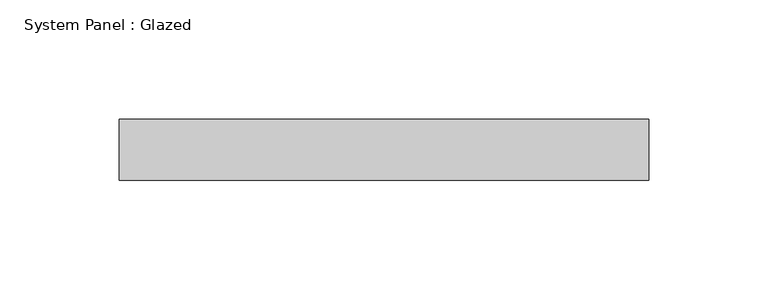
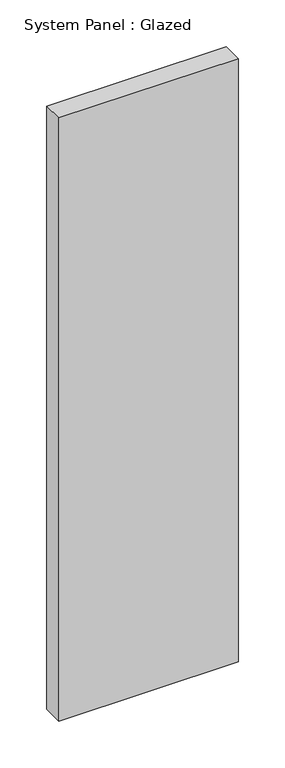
"""IFC4 building model written with IfcOpenShell, lengths in millimetres: plate geometry, System Panel : Glazed."""

import ifcopenshell
import ifcopenshell.guid

model = None  # the IFC model being written
_history = None  # IfcOwnerHistory: only IFC2X3 demands one
_inside = {}  # id of a spatial element -> (the spatial element, [elements in it])
_under = {}  # id of a project, library or spatial element -> (it, [spatial elements below it])
_declared = {}  # id of a project -> (the project, [libraries it declares])
_typed = {}  # id of a type object -> (the type object, [elements of that type])
_made_of = {}  # id of a material, layer set ... -> (it, [elements and type objects made of it])


def new_model(schema):
    """Start an empty IFC model of exactly this schema.

    Asked for "IFC4X3", IfcOpenShell would pick the latest addendum, in which some entities
    have other attributes; the version numbers below select the first issue.
    IFC2X3 requires an IfcOwnerHistory on every rooted entity: one is made here for all.
    """
    global model, _history
    if schema == "IFC4X3":
        model = ifcopenshell.file(schema_version=(4, 3, 0, 0))
    else:
        model = ifcopenshell.file(schema=schema)
    _inside.clear()
    _under.clear()
    _declared.clear()
    _typed.clear()
    _made_of.clear()
    _history = None
    if model.schema == "IFC2X3":
        org = make("IfcOrganization", Name="unknown")
        user = make(
            "IfcPersonAndOrganization",
            ThePerson=make("IfcPerson", FamilyName="unknown"),
            TheOrganization=org,
        )
        app = make(
            "IfcApplication",
            ApplicationDeveloper=org,
            Version="unknown",
            ApplicationFullName="unknown",
            ApplicationIdentifier="unknown",
        )
        _history = make(
            "IfcOwnerHistory",
            OwningUser=user,
            OwningApplication=app,
            ChangeAction="ADDED",
            CreationDate=0,
        )
    return model


def make(cls, **values):
    """One entity of the class cls with the attributes given. An attribute that is None is left unset."""
    return model.create_entity(
        cls, **{name: value for name, value in values.items() if value is not None}
    )


def rooted(cls, **values):
    """An entity with a GlobalId (a new one), such as an element, a storey or a relation."""
    return make(cls, GlobalId=ifcopenshell.guid.new(), OwnerHistory=_history, **values)


def si_unit(unit_type, name, prefix=None):
    """IfcSIUnit, for example si_unit("LENGTHUNIT", "METRE", prefix="MILLI")."""
    return make("IfcSIUnit", UnitType=unit_type, Prefix=prefix, Name=name)


def assignment(units):
    """IfcUnitAssignment: the units of a project."""
    return None if units is None else make("IfcUnitAssignment", Units=units)


def point(xyz):
    """IfcCartesianPoint."""
    return None if xyz is None else make("IfcCartesianPoint", Coordinates=xyz)


def direction(xyz):
    """IfcDirection."""
    return None if xyz is None else make("IfcDirection", DirectionRatios=xyz)


def frame(location, z_axis=None, x_axis=None):
    """IfcAxis2Placement3D, a coordinate frame: its origin and axes. An axis left out is left unset."""
    return make(
        "IfcAxis2Placement3D",
        Location=point(location),
        Axis=direction(z_axis),
        RefDirection=direction(x_axis),
    )


def origin():
    """The frame at (0, 0, 0) with its axes left unset."""
    return frame((0.0, 0.0, 0.0))


def origin_with_axes():
    """The frame at (0, 0, 0) with the z axis (0, 0, 1) and the x axis (1, 0, 0) written out."""
    return frame((0.0, 0.0, 0.0), z_axis=(0.0, 0.0, 1.0), x_axis=(1.0, 0.0, 0.0))


def place(relative_to, where):
    """IfcLocalPlacement: puts the frame where relative to a parent placement (None: the world)."""
    return make(
        "IfcLocalPlacement", PlacementRelTo=relative_to, RelativePlacement=where
    )


def context(
    kind, dimensions, precision=None, world=None, true_north=None, identifier=None
):
    """IfcGeometricRepresentationContext, for example the 3D "Model" context."""
    return make(
        "IfcGeometricRepresentationContext",
        ContextIdentifier=identifier,
        ContextType=kind,
        CoordinateSpaceDimension=dimensions,
        Precision=precision,
        WorldCoordinateSystem=world,
        TrueNorth=true_north,
    )


def project(units=None, contexts=None):
    """IfcProject with its units and contexts."""
    return rooted(
        "IfcProject",
        Name="project",
        RepresentationContexts=contexts,
        UnitsInContext=assignment(units),
    )


def spatial(cls, under=None, at=None, **own):
    """A site, building, storey or space (cls), placed at a placement, below another one or the project."""
    s = rooted(cls, ObjectPlacement=at, **own)
    if under is not None:
        _under.setdefault(under.id(), (under, []))[1].append(s)
    return s


def polyline(points):
    """IfcPolyline through the points."""
    return make("IfcPolyline", Points=[point(p) for p in points])


def outline(outer, holes=None, kind="AREA"):
    """IfcArbitraryClosedProfileDef: a profile drawn as a closed curve; with holes, ...WithVoids."""
    if holes is None:
        return make("IfcArbitraryClosedProfileDef", ProfileType=kind, OuterCurve=outer)
    return make(
        "IfcArbitraryProfileDefWithVoids",
        ProfileType=kind,
        OuterCurve=outer,
        InnerCurves=holes,
    )


def extrude(swept, where, along, depth):
    """IfcExtrudedAreaSolid: the profile swept, set in the frame where, extruded along a direction by depth."""
    return make(
        "IfcExtrudedAreaSolid",
        SweptArea=swept,
        Position=where,
        ExtrudedDirection=direction(along),
        Depth=depth,
    )


def shape(context_of_items, identifier, shape_type, items):
    """IfcShapeRepresentation: the items that make up one representation, for example the "Body"."""
    return make(
        "IfcShapeRepresentation",
        ContextOfItems=context_of_items,
        RepresentationIdentifier=identifier,
        RepresentationType=shape_type,
        Items=items,
    )


def source(mapping_origin, context_of_items, identifier, shape_type, items):
    """IfcRepresentationMap: a shape defined once, which mapped items show again and again."""
    return make(
        "IfcRepresentationMap",
        MappingOrigin=mapping_origin,
        MappedRepresentation=shape(context_of_items, identifier, shape_type, items),
    )


def transform(
    local_origin,
    x_axis=None,
    y_axis=None,
    z_axis=None,
    scale=None,
    scale2=None,
    scale3=None,
    uniform=True,
):
    """IfcCartesianTransformationOperator3D, or its non-uniform kind. x_axis, y_axis, z_axis: its Axis1, 2, 3."""
    if uniform:
        return make(
            "IfcCartesianTransformationOperator3D",
            Axis1=direction(x_axis),
            Axis2=direction(y_axis),
            LocalOrigin=point(local_origin),
            Scale=scale,
            Axis3=direction(z_axis),
        )
    return make(
        "IfcCartesianTransformationOperator3DnonUniform",
        Axis1=direction(x_axis),
        Axis2=direction(y_axis),
        LocalOrigin=point(local_origin),
        Scale=scale,
        Axis3=direction(z_axis),
        Scale2=scale2,
        Scale3=scale3,
    )


def mapped(mapping_source, mapping_target):
    """IfcMappedItem: shows the shape of a source again, moved by a transform."""
    return make(
        "IfcMappedItem", MappingSource=mapping_source, MappingTarget=mapping_target
    )


def made_of(thing, what):
    """Note that an element or type object is made of a material, layer set ...; save() writes the relation."""
    if what is not None:
        _made_of.setdefault(what.id(), (what, []))[1].append(thing)
    return thing


def element(
    cls,
    number,
    at=None,
    inside=None,
    cuts=None,
    type_object=None,
    material=None,
    context=None,
    identifier="Body",
    shape_type=None,
    held_by="IfcProductDefinitionShape",
    body=None,
    shapes=None,
    **own,
):
    """One element of the class cls, such as IfcWall. Its Tag is "e" and its number.

    at: its placement. inside: the storey or other place that contains it. cuts: it is an
    opening in that element (IfcRelVoidsElement). A single representation is given by context,
    identifier, shape_type and body (its items); several are given by shapes. held_by: the class
    of the entity that holds the representations. save() writes the other relations.
    """
    e = rooted(cls, Tag="e%d" % number, ObjectPlacement=at, **own)
    if body is not None:
        shapes = [shape(context, identifier, shape_type, body)]
    if shapes is not None:
        e.Representation = make(held_by, Representations=shapes)
    if inside is not None:
        _inside.setdefault(inside.id(), (inside, []))[1].append(e)
    if cuts is not None:
        rooted(
            "IfcRelVoidsElement", RelatingBuildingElement=cuts, RelatedOpeningElement=e
        )
    if type_object is not None:
        _typed.setdefault(type_object.id(), (type_object, []))[1].append(e)
    return made_of(e, material)


def aggregate(whole, parts):
    """IfcRelAggregates: a whole, such as a stair, and the parts it consists of."""
    return rooted("IfcRelAggregates", RelatingObject=whole, RelatedObjects=parts)


def save(model, path):
    """Write the relations noted so far, then the file.

    IfcRelAggregates (storeys below a building ...), IfcRelContainedInSpatialStructure (elements
    in a storey), IfcRelDefinesByType, IfcRelAssociatesMaterial and IfcRelDeclares: one each for
    every whole, place, type object, material and project.
    """
    for whole, parts in _under.values():
        aggregate(whole, parts)
    for where, things in _inside.values():
        rooted(
            "IfcRelContainedInSpatialStructure",
            RelatedElements=things,
            RelatingStructure=where,
        )
    for kind, things in _typed.values():
        rooted("IfcRelDefinesByType", RelatedObjects=things, RelatingType=kind)
    for what, things in _made_of.values():
        rooted("IfcRelAssociatesMaterial", RelatedObjects=things, RelatingMaterial=what)
    for by, libraries in _declared.values():
        rooted("IfcRelDeclares", RelatingContext=by, RelatedDefinitions=libraries)
    model.write(path)


def system_panel_glazed_6272dde4(model_context):
    return source(origin(), model_context, "Body", "SweptSolid", [
        extrude(outline(polyline([(110.747598, -44.45), (-110.747598, -44.45), (-110.747598, -19.05), (110.747598, -19.05), (110.747598, -44.45)])), origin_with_axes(), (0.0, 0.0, 1.0), 787.4),
    ])


if __name__ == "__main__":
    model = new_model("IFC4")
    model_context = context("Model", 3, world=origin())
    ifc_project = project(units=[si_unit("LENGTHUNIT", "METRE", prefix="MILLI")], contexts=[model_context])
    site = spatial("IfcSite", under=ifc_project)
    building = spatial("IfcBuilding", under=site)
    placement = place(None, origin())
    system_panel_glazed_shape = system_panel_glazed_6272dde4(model_context)
    element("IfcPlate", 1, ObjectType="System Panel : Glazed", at=placement, inside=building, context=model_context, shape_type="MappedRepresentation", body=[
        mapped(system_panel_glazed_shape, transform((0.0, 0.0, 0.0), x_axis=(1.0, 0.0, 0.0), y_axis=(0.0, 1.0, 0.0), z_axis=(0.0, 0.0, 1.0))),
    ])
    save(model, "model.ifc")
